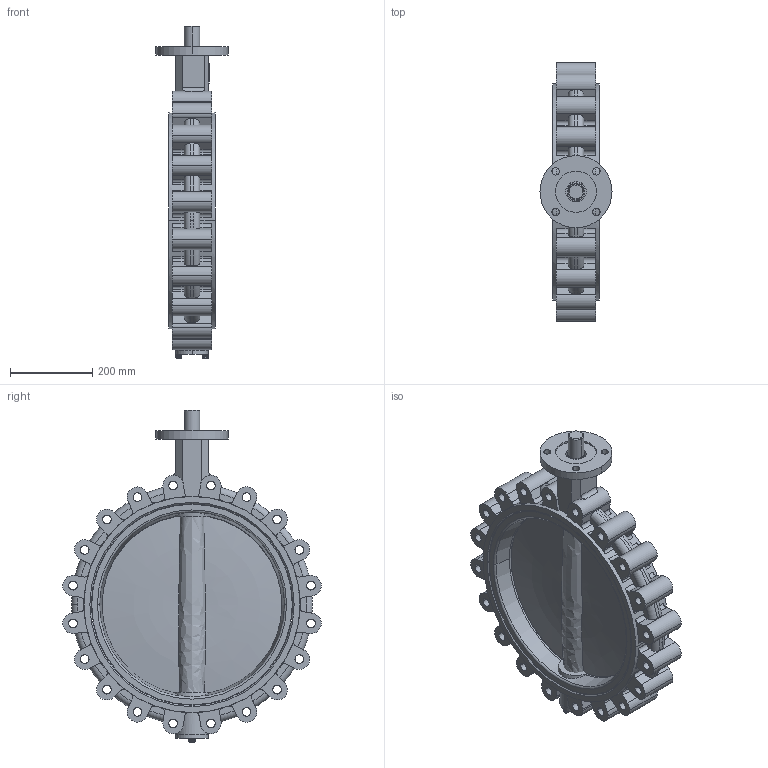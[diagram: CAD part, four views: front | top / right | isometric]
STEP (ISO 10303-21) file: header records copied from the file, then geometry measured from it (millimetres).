
FILE_DESCRIPTION(('Open CASCADE Model'),'2;1');
FILE_NAME('Open CASCADE Shape Model','2022-03-10T13:46:09',('Author'),( 'Open CASCADE'),'Open CASCADE STEP processor 7.3','Open CASCADE 7.3' ,'Unknown');
FILE_SCHEMA(('AUTOMOTIVE_DESIGN { 1 0 10303 214 1 1 1 1 }'));
Length unit declared in the file: millimetre
Products named in the file (13): Open CASCADE STEP translator 7.3 1; Open CASCADE STEP translator 7.3 1.1; Open CASCADE STEP translator 7.3 1.2; Open CASCADE STEP translator 7.3 1.3; Open CASCADE STEP translator 7.3 1.4; Open CASCADE STEP translator 7.3 1.5; Open CASCADE STEP translator 7.3 1.6; Open CASCADE STEP translator 7.3 1.7; Open CASCADE STEP translator 7.3 1.8; Open CASCADE STEP translator 7.3 1.9; Open CASCADE STEP translator 7.3 1.10; Open CASCADE STEP translator 7.3 1.11; Open CASCADE STEP translator 7.3 1.12
Assembly tree (12 placements, depth 2):
  Open CASCADE STEP translator 7.3 1
    Open CASCADE STEP translator 7.3 1.1
    Open CASCADE STEP translator 7.3 1.2
    Open CASCADE STEP translator 7.3 1.3
    Open CASCADE STEP translator 7.3 1.4
    Open CASCADE STEP translator 7.3 1.5
    Open CASCADE STEP translator 7.3 1.6
    Open CASCADE STEP translator 7.3 1.7
    Open CASCADE STEP translator 7.3 1.8
    Open CASCADE STEP translator 7.3 1.9
    Open CASCADE STEP translator 7.3 1.10
    Open CASCADE STEP translator 7.3 1.11
    Open CASCADE STEP translator 7.3 1.12
Bounding box: 175 x 627.79 x 806.36 mm (x, y, z)
Volume: 16301249 mm3; surface area: 1753917.4 mm2
Topology: 12 solids, 12 shells, 630 faces, 1693 edges, 1102 vertices
Faces by surface type: cylinder 289, plane 211, torus 68, cone 56, revolution 4, bspline 2
Entity records: 62156 total; most frequent: CARTESIAN_POINT 28862, DIRECTION 6233, ORIENTED_EDGE 3374, PCURVE 3374, DEFINITIONAL_REPRESENTATION 3374, LINE 2995, VECTOR 2995, EDGE_CURVE 1687
